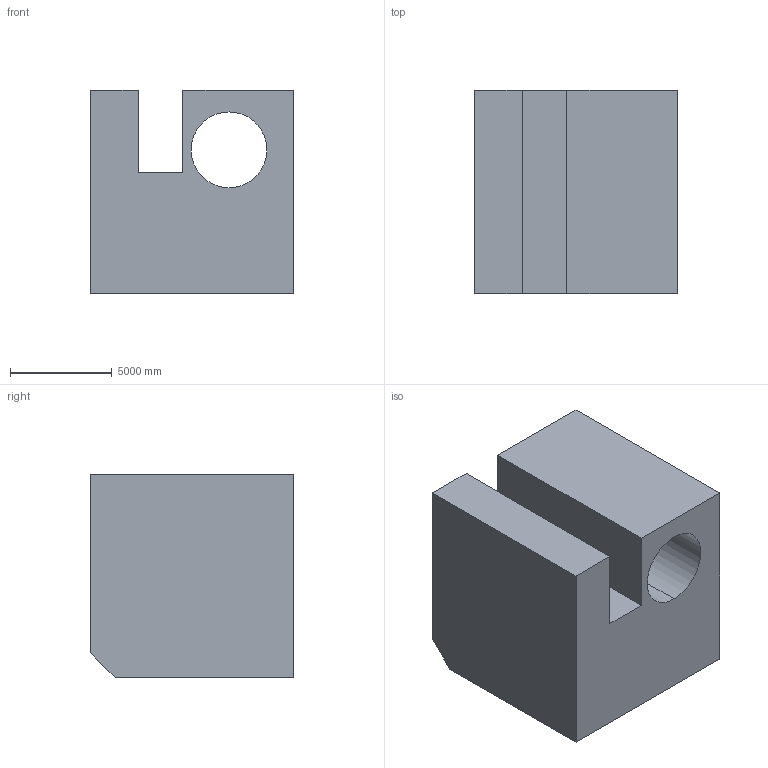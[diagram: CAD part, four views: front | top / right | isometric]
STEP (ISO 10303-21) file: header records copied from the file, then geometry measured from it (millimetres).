
FILE_DESCRIPTION (( 'STEP AP203' ), '1' );
FILE_NAME ('242.STEP', '2022-07-28T14:04:32', ( 'user' ), ( '' ), 'SwSTEP 2.0', 'SolidWorks 2021', '' );
FILE_SCHEMA (( 'CONFIG_CONTROL_DESIGN' ));
Length unit declared in the file: centimetre
Products named in the file (1): 242
Bounding box: 10000 x 10000 x 10000 mm (x, y, z)
Volume: 794769573918.5 mm3; surface area: 749881368.4 mm2
Topology: 1 solids, 1 shells, 13 faces, 33 edges, 22 vertices
Faces by surface type: plane 11, cylinder 2
Entity records: 472 total; most frequent: CARTESIAN_POINT 69, ORIENTED_EDGE 66, DIRECTION 65, EDGE_CURVE 33, VECTOR 29, LINE 29, VERTEX_POINT 22, AXIS2_PLACEMENT_3D 18
